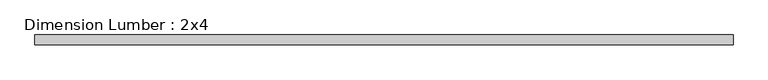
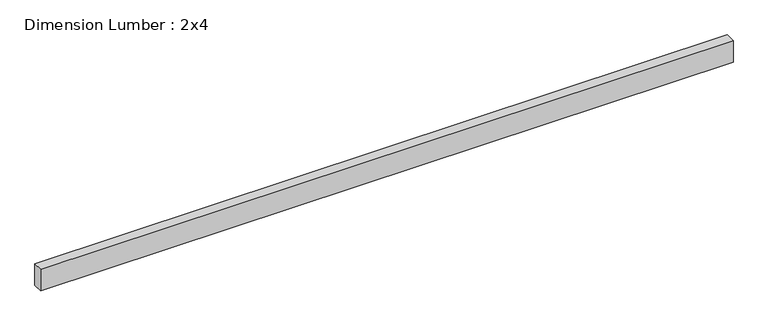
"""IFC4 building model written with IfcOpenShell, lengths in millimetres: beam geometry, Dimension Lumber : 2x4."""

from ifc_helpers import new_model, si_unit, frame, origin, place, context, project, spatial, polyline, outline, extrude, source, transform, mapped, element, save


def dimension_lumber_2x4_cb0fdfa4(model_context):
    return source(origin(), model_context, "Body", "SweptSolid", [
        extrude(outline(polyline([(1333.5, 19.05), (1333.5, -19.05), (-1371.6, -19.05), (-1371.6, 19.05), (1333.5, 19.05)])), frame((0.0, 0.0, -44.45), z_axis=(0.0, 0.0, 1.0), x_axis=(1.0, 0.0, 0.0)), (0.0, 0.0, 1.0), 88.9),
    ])


if __name__ == "__main__":
    model = new_model("IFC4")
    model_context = context("Model", 3, world=origin())
    ifc_project = project(units=[si_unit("LENGTHUNIT", "METRE", prefix="MILLI")], contexts=[model_context])
    site = spatial("IfcSite", under=ifc_project)
    building = spatial("IfcBuilding", under=site)
    placement = place(None, origin())
    dimension_lumber_2x4_shape = dimension_lumber_2x4_cb0fdfa4(model_context)
    element("IfcBeam", 1, ObjectType="Dimension Lumber : 2x4", at=placement, inside=building, context=model_context, shape_type="MappedRepresentation", body=[
        mapped(dimension_lumber_2x4_shape, transform((0.0, 0.0, 0.0), x_axis=(1.0, 0.0, 0.0), y_axis=(0.0, 1.0, 0.0), z_axis=(0.0, 0.0, 1.0))),
    ])
    save(model, "model.ifc")
